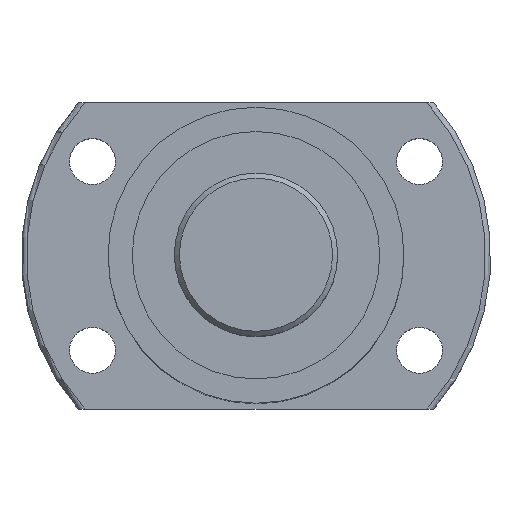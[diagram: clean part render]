
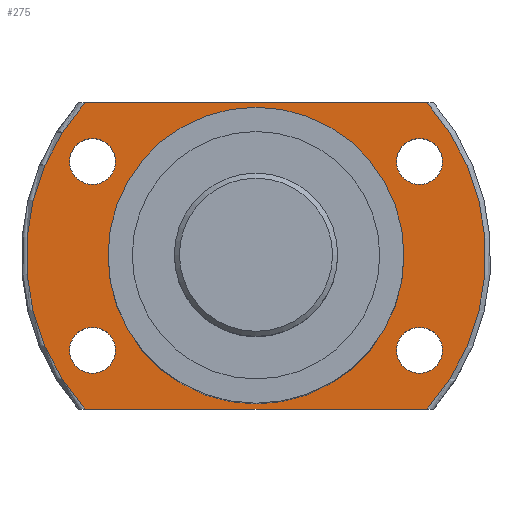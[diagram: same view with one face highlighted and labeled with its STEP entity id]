
A CAD part, top view. The second image highlights one B-rep face of the part: STEP entity #275.
In plain terms, the highlighted planar face has unit normal (0, 0, 1) as drawn and (1, 0, 0) by its records, which use the part's own axes.
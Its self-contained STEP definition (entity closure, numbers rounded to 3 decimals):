
#97=LINE('',#1238,#105);
#98=LINE('',#1242,#106);
#105=VECTOR('',#975,1.);
#106=VECTOR('',#978,1.);
#208=FACE_BOUND('',#382,.T.);
#209=FACE_BOUND('',#383,.T.);
#210=FACE_BOUND('',#384,.T.);
#211=FACE_BOUND('',#385,.T.);
#212=FACE_BOUND('',#386,.T.);
#213=FACE_BOUND('',#387,.T.);
#275=ADVANCED_FACE('',(#208,#209,#210,#211,#212,#213),#307,.T.);
#307=PLANE('',#809);
#382=EDGE_LOOP('',(#489));
#383=EDGE_LOOP('',(#490,#491,#492,#493));
#384=EDGE_LOOP('',(#494));
#385=EDGE_LOOP('',(#495));
#386=EDGE_LOOP('',(#496));
#387=EDGE_LOOP('',(#497));
#489=ORIENTED_EDGE('',*,*,#637,.T.);
#490=ORIENTED_EDGE('',*,*,#657,.T.);
#491=ORIENTED_EDGE('',*,*,#658,.T.);
#492=ORIENTED_EDGE('',*,*,#659,.F.);
#493=ORIENTED_EDGE('',*,*,#648,.T.);
#494=ORIENTED_EDGE('',*,*,#660,.T.);
#495=ORIENTED_EDGE('',*,*,#661,.T.);
#496=ORIENTED_EDGE('',*,*,#662,.T.);
#497=ORIENTED_EDGE('',*,*,#663,.T.);
#577=VERTEX_POINT('',#1114);
#587=VERTEX_POINT('',#1164);
#589=VERTEX_POINT('',#1167);
#595=VERTEX_POINT('',#1239);
#596=VERTEX_POINT('',#1241);
#597=VERTEX_POINT('',#1244);
#598=VERTEX_POINT('',#1246);
#599=VERTEX_POINT('',#1248);
#600=VERTEX_POINT('',#1250);
#637=EDGE_CURVE('',#577,#577,#705,.T.);
#648=EDGE_CURVE('',#589,#587,#715,.T.);
#657=EDGE_CURVE('',#587,#595,#97,.T.);
#658=EDGE_CURVE('',#595,#596,#719,.T.);
#659=EDGE_CURVE('',#589,#596,#98,.T.);
#660=EDGE_CURVE('',#597,#597,#720,.T.);
#661=EDGE_CURVE('',#598,#598,#721,.T.);
#662=EDGE_CURVE('',#599,#599,#722,.T.);
#663=EDGE_CURVE('',#600,#600,#723,.T.);
#705=CIRCLE('',#775,29.);
#715=CIRCLE('',#797,45.);
#719=CIRCLE('',#804,45.);
#720=CIRCLE('',#805,4.5);
#721=CIRCLE('',#806,4.5);
#722=CIRCLE('',#807,4.5);
#723=CIRCLE('',#808,4.5);
#775=AXIS2_PLACEMENT_3D('',#1113,#915,#916);
#797=AXIS2_PLACEMENT_3D('',#1166,#959,#960);
#804=AXIS2_PLACEMENT_3D('',#1240,#976,#977);
#805=AXIS2_PLACEMENT_3D('',#1243,#979,#980);
#806=AXIS2_PLACEMENT_3D('',#1245,#981,#982);
#807=AXIS2_PLACEMENT_3D('',#1247,#983,#984);
#808=AXIS2_PLACEMENT_3D('',#1249,#985,#986);
#809=AXIS2_PLACEMENT_3D('',#1251,#987,#988);
#915=DIRECTION('',(-1.,0.,0.));
#916=DIRECTION('',(0.,1.,0.));
#959=DIRECTION('',(1.,0.,0.));
#960=DIRECTION('',(0.,1.,0.));
#975=DIRECTION('',(0.,0.,1.));
#976=DIRECTION('',(1.,0.,0.));
#977=DIRECTION('',(0.,1.,0.));
#978=DIRECTION('',(0.,0.,1.));
#979=DIRECTION('',(-1.,0.,0.));
#980=DIRECTION('',(0.,-1.,0.));
#981=DIRECTION('',(-1.,0.,0.));
#982=DIRECTION('',(0.,-1.,0.));
#983=DIRECTION('',(-1.,0.,0.));
#984=DIRECTION('',(0.,-1.,0.));
#985=DIRECTION('',(-1.,0.,0.));
#986=DIRECTION('',(0.,-1.,0.));
#987=DIRECTION('',(1.,0.,0.));
#988=DIRECTION('',(0.,1.,0.));
#1113=CARTESIAN_POINT('',(163.804,83.292,0.));
#1114=CARTESIAN_POINT('',(163.804,112.292,0.));
#1164=CARTESIAN_POINT('',(163.804,113.292,-33.541));
#1166=CARTESIAN_POINT('',(163.804,83.292,0.));
#1167=CARTESIAN_POINT('',(163.804,53.292,-33.541));
#1238=CARTESIAN_POINT('',(163.804,113.292,-59.672));
#1239=CARTESIAN_POINT('',(163.804,113.292,33.541));
#1240=CARTESIAN_POINT('',(163.804,83.292,0.));
#1241=CARTESIAN_POINT('',(163.804,53.292,33.541));
#1242=CARTESIAN_POINT('',(163.804,53.292,-59.672));
#1243=CARTESIAN_POINT('',(163.804,101.792,32.043));
#1244=CARTESIAN_POINT('',(163.804,97.292,32.043));
#1245=CARTESIAN_POINT('',(163.804,64.792,32.043));
#1246=CARTESIAN_POINT('',(163.804,60.292,32.043));
#1247=CARTESIAN_POINT('',(163.804,64.792,-32.043));
#1248=CARTESIAN_POINT('',(163.804,60.292,-32.043));
#1249=CARTESIAN_POINT('',(163.804,101.792,-32.043));
#1250=CARTESIAN_POINT('',(163.804,97.292,-32.043));
#1251=CARTESIAN_POINT('',(163.804,112.292,0.));
